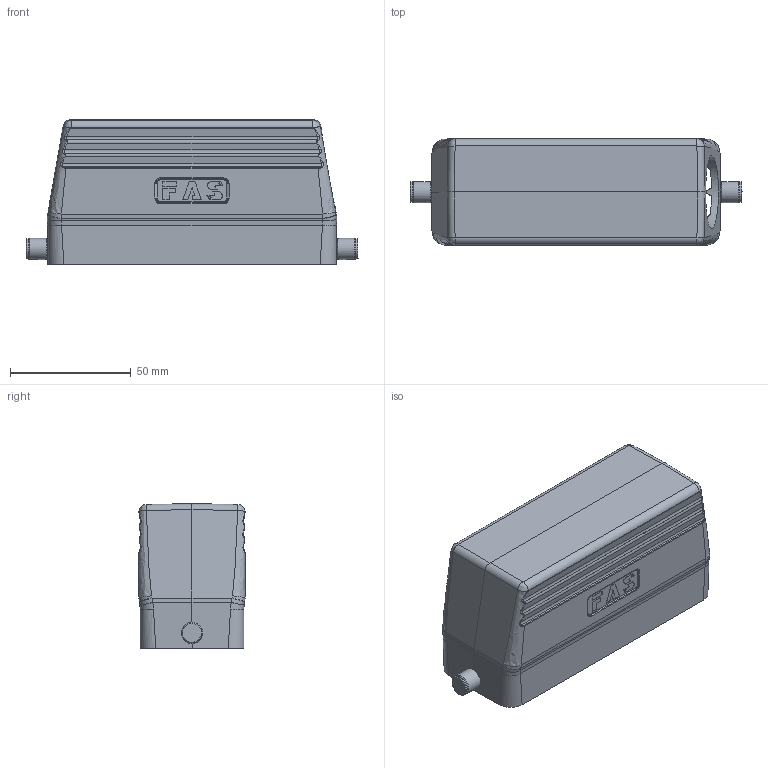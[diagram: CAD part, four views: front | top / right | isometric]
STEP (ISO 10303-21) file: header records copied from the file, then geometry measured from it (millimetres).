
FILE_DESCRIPTION (( 'STEP AP203' ), '1' );
FILE_NAME ('H24B-TS-RO-M32.STEP', '2023-06-09T05:43:19', ( '' ), ( '' ), 'SwSTEP 2.0', 'SolidWorks 2016', '' );
FILE_SCHEMA (( 'CONFIG_CONTROL_DESIGN' ));
Length unit declared in the file: millimetre
Products named in the file (1): H24B-TS-RO-M32
Bounding box: 137.69 x 44 x 60 mm (x, y, z)
Volume: 90354.4 mm3; surface area: 43134.6 mm2
Topology: 1 solids, 1 shells, 502 faces, 1227 edges, 756 vertices
Faces by surface type: plane 181, cylinder 151, bspline 122, cone 28, torus 16, sphere 4
Full cylindrical faces by diameter (mm): 1.5 x2, 2 x2, 3 x2, 4.8 x2, 5 x2, 8.5 x2, 8.8 x2, 30.5 x1
Entity records: 22445 total; most frequent: CARTESIAN_POINT 12122, ORIENTED_EDGE 2340, DIRECTION 1725, EDGE_CURVE 1170, VERTEX_POINT 742, AXIS2_PLACEMENT_3D 605, EDGE_LOOP 580, FACE_OUTER_BOUND 517
